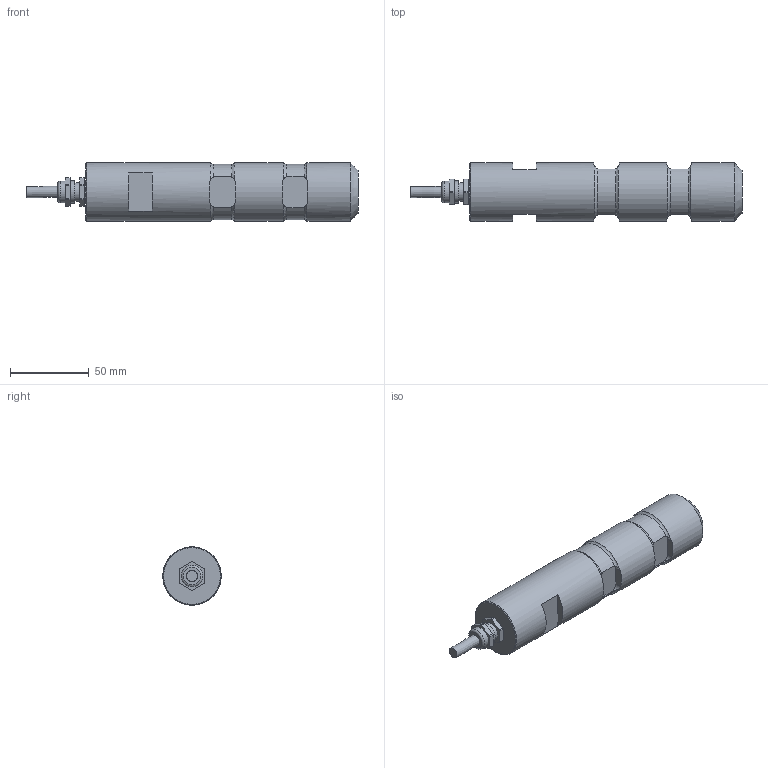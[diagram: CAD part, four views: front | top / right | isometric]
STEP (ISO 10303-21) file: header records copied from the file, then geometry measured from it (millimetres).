
FILE_DESCRIPTION(/* description */ ('Alibre Inc.'),/* implementation_level */ '2;1');
FILE_NAME(/* name */ 'export0',/* time_stamp */ '2012-04-17T22:06:57+02:00',/* author */ (''),/* organization */ (''),/* preprocessor_version */ 'ST-DEVELOPER v10',/* originating_system */ 'Alibre',/* authorisation */ '');
FILE_SCHEMA (('CONFIG_CONTROL_DESIGN'));
Length unit declared in the file: centimetre
Products named in the file (6): ID_1; ID_2; ID_3; ID_4
Bounding box: 210.25 x 37 x 37 mm (x, y, z)
Volume: 177497.3 mm3; surface area: 25417.9 mm2
Topology: 4 solids, 4 shells, 116 faces, 296 edges, 195 vertices
Faces by surface type: plane 57, cylinder 45, torus 10, cone 3, bspline 1
Full cylindrical faces by diameter (mm): 7 x1, 10.376 x1, 12 x2, 13.7 x1, 14 x1, 37 x3
Entity records: 5172 total; most frequent: CARTESIAN_POINT 2056, ORIENTED_EDGE 558, DIRECTION 431, EDGE_CURVE 279, VERTEX_POINT 193, AXIS2_PLACEMENT_3D 177, FACE_BOUND 140, EDGE_LOOP 139
